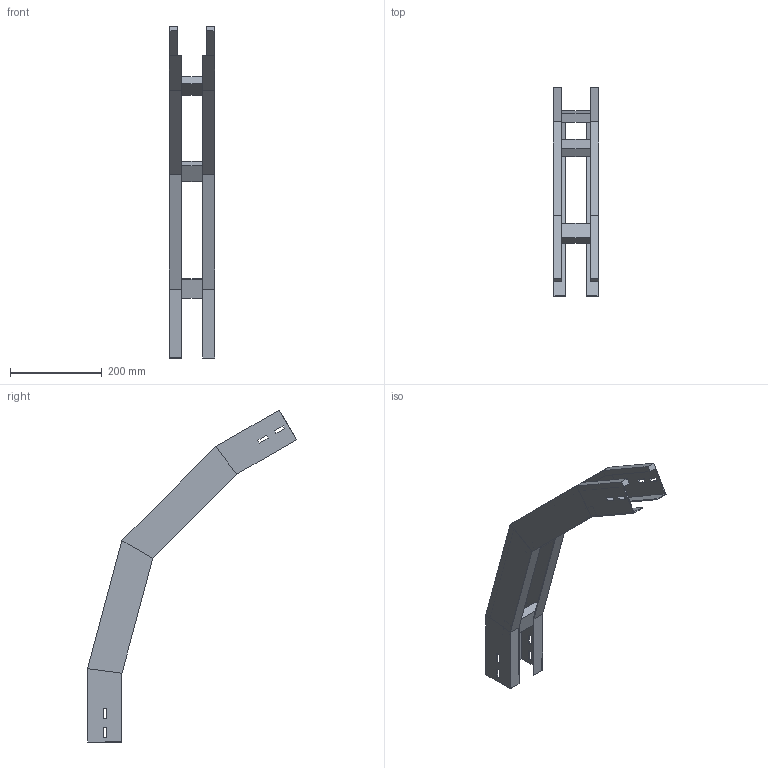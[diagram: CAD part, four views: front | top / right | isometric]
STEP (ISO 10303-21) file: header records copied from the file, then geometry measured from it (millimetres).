
FILE_DESCRIPTION (( 'STEP AP214' ), '1' );
FILE_NAME ('41B5C100.step', '2025-02-21T14:59:16', ( '' ), ( '' ), 'SwSTEP 2.0', 'SolidWorks 2023', '' );
FILE_SCHEMA (( 'AUTOMOTIVE_DESIGN' ));
Length unit declared in the file: millimetre
Products named in the file (3): 41B5C100; TRAVERSINO_100; LONGH.DISCESA_60°_H75_R500
Assembly tree (5 placements, depth 2):
  41B5C100
    LONGH.DISCESA_60°_H75_R500  x2
    TRAVERSINO_100  x3
Bounding box: 100 x 455.08 x 723.27 mm (x, y, z)
Volume: 912339.7 mm3; surface area: 442906.3 mm2
Topology: 5 solids, 5 shells, 118 faces, 276 edges, 168 vertices
Faces by surface type: plane 118
Entity records: 1672 total; most frequent: CARTESIAN_POINT 276, ORIENTED_EDGE 264, DIRECTION 260, EDGE_CURVE 132, VECTOR 132, LINE 132, VERTEX_POINT 80, AXIS2_PLACEMENT_3D 64
